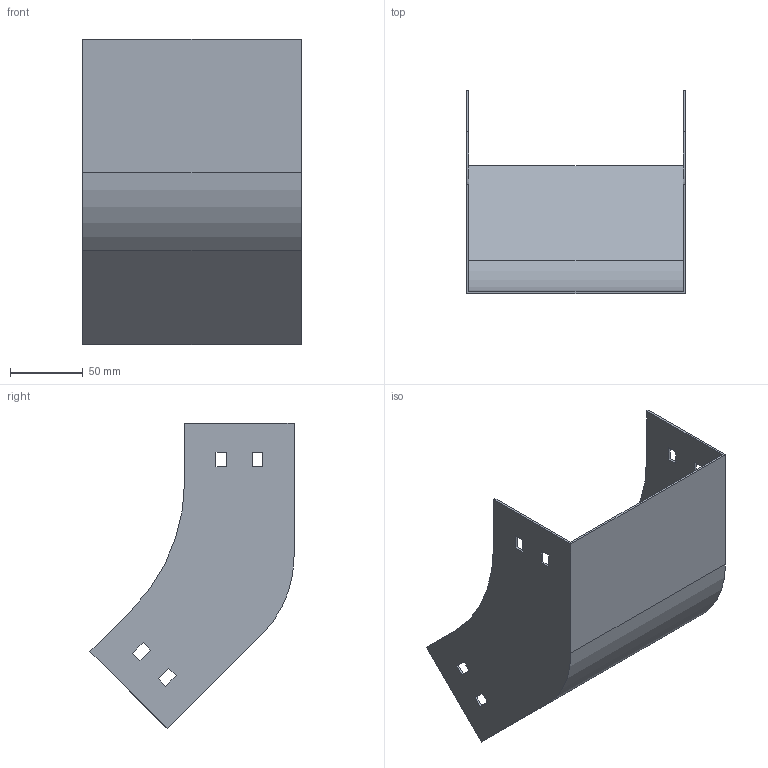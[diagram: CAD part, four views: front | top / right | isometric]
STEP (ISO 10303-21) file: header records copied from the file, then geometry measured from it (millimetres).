
FILE_DESCRIPTION (( 'STEP AP214' ), '1' );
FILE_NAME ('S4_157.step', '2025-07-16T09:26:26', ( '' ), ( '' ), 'SwSTEP 2.0', 'SolidWorks 2023', '' );
FILE_SCHEMA (( 'AUTOMOTIVE_DESIGN' ));
Length unit declared in the file: millimetre
Products named in the file (1): S4_157
Bounding box: 150 x 139.9 x 209.71 mm (x, y, z)
Volume: 101427 mm3; surface area: 137071.2 mm2
Topology: 1 solids, 1 shells, 50 faces, 144 edges, 96 vertices
Faces by surface type: plane 46, cylinder 4
Entity records: 1671 total; most frequent: CARTESIAN_POINT 291, ORIENTED_EDGE 288, DIRECTION 254, EDGE_CURVE 144, VECTOR 136, LINE 136, VERTEX_POINT 96, EDGE_LOOP 66
